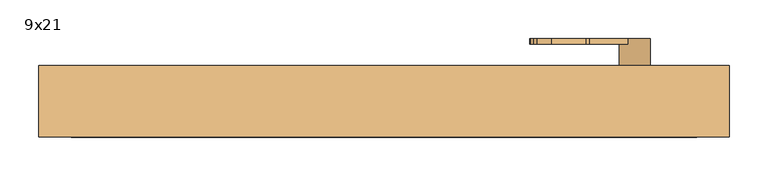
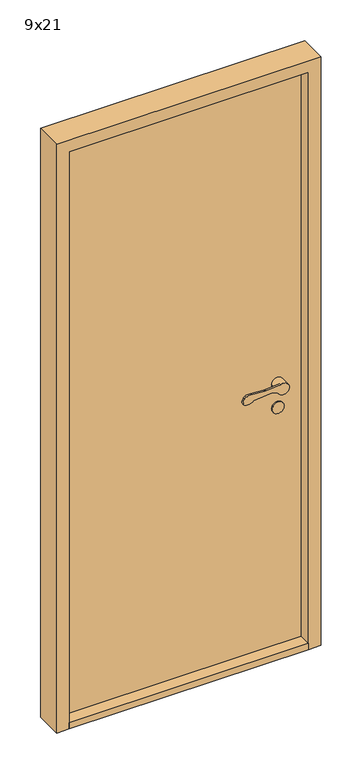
"""IFC4 building model written with IfcOpenShell, lengths in millimetres: door geometry, Innerdør Slett (Diplomat) : 9x21."""

import ifcopenshell
import ifcopenshell.guid

model = None  # the IFC model being written
_history = None  # IfcOwnerHistory: only IFC2X3 demands one
_inside = {}  # id of a spatial element -> (the spatial element, [elements in it])
_under = {}  # id of a project, library or spatial element -> (it, [spatial elements below it])
_declared = {}  # id of a project -> (the project, [libraries it declares])
_typed = {}  # id of a type object -> (the type object, [elements of that type])
_made_of = {}  # id of a material, layer set ... -> (it, [elements and type objects made of it])


def new_model(schema):
    """Start an empty IFC model of exactly this schema.

    Asked for "IFC4X3", IfcOpenShell would pick the latest addendum, in which some entities
    have other attributes; the version numbers below select the first issue.
    IFC2X3 requires an IfcOwnerHistory on every rooted entity: one is made here for all.
    """
    global model, _history
    if schema == "IFC4X3":
        model = ifcopenshell.file(schema_version=(4, 3, 0, 0))
    else:
        model = ifcopenshell.file(schema=schema)
    _inside.clear()
    _under.clear()
    _declared.clear()
    _typed.clear()
    _made_of.clear()
    _history = None
    if model.schema == "IFC2X3":
        org = make("IfcOrganization", Name="unknown")
        user = make(
            "IfcPersonAndOrganization",
            ThePerson=make("IfcPerson", FamilyName="unknown"),
            TheOrganization=org,
        )
        app = make(
            "IfcApplication",
            ApplicationDeveloper=org,
            Version="unknown",
            ApplicationFullName="unknown",
            ApplicationIdentifier="unknown",
        )
        _history = make(
            "IfcOwnerHistory",
            OwningUser=user,
            OwningApplication=app,
            ChangeAction="ADDED",
            CreationDate=0,
        )
    return model


def make(cls, **values):
    """One entity of the class cls with the attributes given. An attribute that is None is left unset."""
    return model.create_entity(
        cls, **{name: value for name, value in values.items() if value is not None}
    )


def rooted(cls, **values):
    """An entity with a GlobalId (a new one), such as an element, a storey or a relation."""
    return make(cls, GlobalId=ifcopenshell.guid.new(), OwnerHistory=_history, **values)


def si_unit(unit_type, name, prefix=None):
    """IfcSIUnit, for example si_unit("LENGTHUNIT", "METRE", prefix="MILLI")."""
    return make("IfcSIUnit", UnitType=unit_type, Prefix=prefix, Name=name)


def assignment(units):
    """IfcUnitAssignment: the units of a project."""
    return None if units is None else make("IfcUnitAssignment", Units=units)


def point(xyz):
    """IfcCartesianPoint."""
    return None if xyz is None else make("IfcCartesianPoint", Coordinates=xyz)


def direction(xyz):
    """IfcDirection."""
    return None if xyz is None else make("IfcDirection", DirectionRatios=xyz)


def frame(location, z_axis=None, x_axis=None):
    """IfcAxis2Placement3D, a coordinate frame: its origin and axes. An axis left out is left unset."""
    return make(
        "IfcAxis2Placement3D",
        Location=point(location),
        Axis=direction(z_axis),
        RefDirection=direction(x_axis),
    )


def frame_2d(location, x_axis=None):
    """IfcAxis2Placement2D, a coordinate frame in the plane: its origin and x axis."""
    return make(
        "IfcAxis2Placement2D", Location=point(location), RefDirection=direction(x_axis)
    )


def origin():
    """The frame at (0, 0, 0) with its axes left unset."""
    return frame((0.0, 0.0, 0.0))


def origin_with_axes():
    """The frame at (0, 0, 0) with the z axis (0, 0, 1) and the x axis (1, 0, 0) written out."""
    return frame((0.0, 0.0, 0.0), z_axis=(0.0, 0.0, 1.0), x_axis=(1.0, 0.0, 0.0))


def place(relative_to, where):
    """IfcLocalPlacement: puts the frame where relative to a parent placement (None: the world)."""
    return make(
        "IfcLocalPlacement", PlacementRelTo=relative_to, RelativePlacement=where
    )


def context(
    kind, dimensions, precision=None, world=None, true_north=None, identifier=None
):
    """IfcGeometricRepresentationContext, for example the 3D "Model" context."""
    return make(
        "IfcGeometricRepresentationContext",
        ContextIdentifier=identifier,
        ContextType=kind,
        CoordinateSpaceDimension=dimensions,
        Precision=precision,
        WorldCoordinateSystem=world,
        TrueNorth=true_north,
    )


def project(units=None, contexts=None):
    """IfcProject with its units and contexts."""
    return rooted(
        "IfcProject",
        Name="project",
        RepresentationContexts=contexts,
        UnitsInContext=assignment(units),
    )


def spatial(cls, under=None, at=None, **own):
    """A site, building, storey or space (cls), placed at a placement, below another one or the project."""
    s = rooted(cls, ObjectPlacement=at, **own)
    if under is not None:
        _under.setdefault(under.id(), (under, []))[1].append(s)
    return s


def polyline(points):
    """IfcPolyline through the points."""
    return make("IfcPolyline", Points=[point(p) for p in points])


def circle_curve(where, radius):
    """IfcCircle in the frame where."""
    return make("IfcCircle", Position=where, Radius=radius)


def trimmed(basis, trim1, trim2, sense, master):
    """IfcTrimmedCurve: the piece of a basis curve between two trims."""
    return make(
        "IfcTrimmedCurve",
        BasisCurve=basis,
        Trim1=trim1,
        Trim2=trim2,
        SenseAgreement=sense,
        MasterRepresentation=master,
    )


def segment(curve, same_sense, transition):
    """IfcCompositeCurveSegment."""
    return make(
        "IfcCompositeCurveSegment",
        Transition=transition,
        SameSense=same_sense,
        ParentCurve=curve,
    )


def composite_curve(segments, self_intersect=None):
    """IfcCompositeCurve: segments joined end to end."""
    return make("IfcCompositeCurve", Segments=segments, SelfIntersect=self_intersect)


def outline(outer, holes=None, kind="AREA"):
    """IfcArbitraryClosedProfileDef: a profile drawn as a closed curve; with holes, ...WithVoids."""
    if holes is None:
        return make("IfcArbitraryClosedProfileDef", ProfileType=kind, OuterCurve=outer)
    return make(
        "IfcArbitraryProfileDefWithVoids",
        ProfileType=kind,
        OuterCurve=outer,
        InnerCurves=holes,
    )


def extrude(swept, where, along, depth):
    """IfcExtrudedAreaSolid: the profile swept, set in the frame where, extruded along a direction by depth."""
    return make(
        "IfcExtrudedAreaSolid",
        SweptArea=swept,
        Position=where,
        ExtrudedDirection=direction(along),
        Depth=depth,
    )


def shape(context_of_items, identifier, shape_type, items):
    """IfcShapeRepresentation: the items that make up one representation, for example the "Body"."""
    return make(
        "IfcShapeRepresentation",
        ContextOfItems=context_of_items,
        RepresentationIdentifier=identifier,
        RepresentationType=shape_type,
        Items=items,
    )


def source(mapping_origin, context_of_items, identifier, shape_type, items):
    """IfcRepresentationMap: a shape defined once, which mapped items show again and again."""
    return make(
        "IfcRepresentationMap",
        MappingOrigin=mapping_origin,
        MappedRepresentation=shape(context_of_items, identifier, shape_type, items),
    )


def transform(
    local_origin,
    x_axis=None,
    y_axis=None,
    z_axis=None,
    scale=None,
    scale2=None,
    scale3=None,
    uniform=True,
):
    """IfcCartesianTransformationOperator3D, or its non-uniform kind. x_axis, y_axis, z_axis: its Axis1, 2, 3."""
    if uniform:
        return make(
            "IfcCartesianTransformationOperator3D",
            Axis1=direction(x_axis),
            Axis2=direction(y_axis),
            LocalOrigin=point(local_origin),
            Scale=scale,
            Axis3=direction(z_axis),
        )
    return make(
        "IfcCartesianTransformationOperator3DnonUniform",
        Axis1=direction(x_axis),
        Axis2=direction(y_axis),
        LocalOrigin=point(local_origin),
        Scale=scale,
        Axis3=direction(z_axis),
        Scale2=scale2,
        Scale3=scale3,
    )


def mapped(mapping_source, mapping_target):
    """IfcMappedItem: shows the shape of a source again, moved by a transform."""
    return make(
        "IfcMappedItem", MappingSource=mapping_source, MappingTarget=mapping_target
    )


def made_of(thing, what):
    """Note that an element or type object is made of a material, layer set ...; save() writes the relation."""
    if what is not None:
        _made_of.setdefault(what.id(), (what, []))[1].append(thing)
    return thing


def element(
    cls,
    number,
    at=None,
    inside=None,
    cuts=None,
    type_object=None,
    material=None,
    context=None,
    identifier="Body",
    shape_type=None,
    held_by="IfcProductDefinitionShape",
    body=None,
    shapes=None,
    **own,
):
    """One element of the class cls, such as IfcWall. Its Tag is "e" and its number.

    at: its placement. inside: the storey or other place that contains it. cuts: it is an
    opening in that element (IfcRelVoidsElement). A single representation is given by context,
    identifier, shape_type and body (its items); several are given by shapes. held_by: the class
    of the entity that holds the representations. save() writes the other relations.
    """
    e = rooted(cls, Tag="e%d" % number, ObjectPlacement=at, **own)
    if body is not None:
        shapes = [shape(context, identifier, shape_type, body)]
    if shapes is not None:
        e.Representation = make(held_by, Representations=shapes)
    if inside is not None:
        _inside.setdefault(inside.id(), (inside, []))[1].append(e)
    if cuts is not None:
        rooted(
            "IfcRelVoidsElement", RelatingBuildingElement=cuts, RelatedOpeningElement=e
        )
    if type_object is not None:
        _typed.setdefault(type_object.id(), (type_object, []))[1].append(e)
    return made_of(e, material)


def aggregate(whole, parts):
    """IfcRelAggregates: a whole, such as a stair, and the parts it consists of."""
    return rooted("IfcRelAggregates", RelatingObject=whole, RelatedObjects=parts)


def save(model, path):
    """Write the relations noted so far, then the file.

    IfcRelAggregates (storeys below a building ...), IfcRelContainedInSpatialStructure (elements
    in a storey), IfcRelDefinesByType, IfcRelAssociatesMaterial and IfcRelDeclares: one each for
    every whole, place, type object, material and project.
    """
    for whole, parts in _under.values():
        aggregate(whole, parts)
    for where, things in _inside.values():
        rooted(
            "IfcRelContainedInSpatialStructure",
            RelatedElements=things,
            RelatingStructure=where,
        )
    for kind, things in _typed.values():
        rooted("IfcRelDefinesByType", RelatedObjects=things, RelatingType=kind)
    for what, things in _made_of.values():
        rooted("IfcRelAssociatesMaterial", RelatedObjects=things, RelatingMaterial=what)
    for by, libraries in _declared.values():
        rooted("IfcRelDeclares", RelatingContext=by, RelatedDefinitions=libraries)
    model.write(path)


def plane_surface(at):
    """IfcPlane: the flat surface through the origin of the frame at, square to its z axis."""
    return make("IfcPlane", Position=at)


def cylinder_surface(at, radius):
    """IfcCylindricalSurface: all points at the distance radius from the z axis of the frame at."""
    return make("IfcCylindricalSurface", Position=at, Radius=radius)


def revolved_surface(curve, axis_point, axis_direction):
    """IfcSurfaceOfRevolution: the curve turned about the line through axis_point along axis_direction."""
    return make(
        "IfcSurfaceOfRevolution",
        SweptCurve=make("IfcArbitraryOpenProfileDef", ProfileType="CURVE", Curve=curve),
        AxisPosition=make("IfcAxis1Placement", Location=point(axis_point), Axis=direction(axis_direction)),
    )


def advanced_brep(points, edges, surfaces, faces):
    """IfcAdvancedBrep: a solid bounded by faces that lie on surfaces and meet in shared edges.

    An edge is (start, end): straight between two places in points (the first is 0);
    or (start, end, curve); or (start, end, curve, False) where it runs against its curve.
    A face is (place in surfaces, loops), or (place, loops, False) where it looks against
    its surface's normal. A loop lists edges by number (the first is 1), with a minus sign
    where the edge is run from its end to its start. The first loop is the outer one.
    """
    corners = [point(p) for p in points]
    vertices = [make("IfcVertexPoint", VertexGeometry=c) for c in corners]
    made = []
    for start, end, *more in edges:
        made.append(
            make(
                "IfcEdgeCurve",
                EdgeStart=vertices[start],
                EdgeEnd=vertices[end],
                EdgeGeometry=more[0] if more else make("IfcPolyline", Points=[corners[start], corners[end]]),
                SameSense=more[1] if len(more) > 1 else True,
            )
        )
    hull = []
    for where, loops, *sense in faces:
        bounds = []
        for j, loop in enumerate(loops):
            ring = [make("IfcOrientedEdge", EdgeElement=made[abs(k) - 1], Orientation=k > 0) for k in loop]
            bounds.append(
                make(
                    "IfcFaceOuterBound" if j == 0 else "IfcFaceBound",
                    Bound=make("IfcEdgeLoop", EdgeList=ring),
                    Orientation=True,
                )
            )
        hull.append(make("IfcAdvancedFace", Bounds=bounds, FaceSurface=surfaces[where], SameSense=sense[0] if sense else True))
    return make("IfcAdvancedBrep", Outer=make("IfcClosedShell", CfsFaces=hull))


def door_9x21_12a167ef(model_context):
    return source(origin(), model_context, "Body", "SolidModel", [
        advanced_brep(
        [(343.9611305, -20.0, 949.1175955), (358.3841161, -20.0, 942.6204086), (396.379633, -20.0, 951.3474568), (367.2687793, -20.0, 969.1517356), (318.6891233, -20.0, 964.26032), (313.6202158, -20.0, 964.1804415), (268.8963175, -20.0, 967.2639242), (250.3175669, -20.0, 964.8810513), (245.505009, -20.0, 959.9624074), (241.8691983, -20.0, 951.8913379), (246.721536, -20.0, 938.7393398), (276.0476109, -20.0, 943.6260011), (338.8520664, -20.0, 949.9496913), (318.6891233, -12.8915284, 964.26032), (367.2687793, -12.8915284, 969.1517356), (356.379633, -12.8915284, 951.3474568), (358.3841161, -12.8915284, 942.6204086), (343.9611305, -12.8915284, 949.1175955), (338.8520664, -12.8915284, 949.9496913), (276.0476109, -12.8915284, 943.6260011), (246.721536, -12.8915284, 938.7393398), (241.8691983, -12.8915284, 951.8913379), (245.505009, -12.8915284, 959.9624074), (250.3175669, -12.8915284, 964.8810513), (268.8963175, -12.8915284, 967.2639242), (313.6202158, -12.8915284, 964.1804415), (396.379633, 15.0, 951.3474568), (356.379633, 15.0, 951.3474568)],
        [
            (0, 1),
            (1, 2, circle_curve(frame((376.379633, -20.0, 951.3474568), z_axis=(0.0, -1.0, 0.0), x_axis=(-1.0, 0.0, 0.0)), 20.0)),
            (2, 3, circle_curve(frame((376.379633, -20.0, 951.3474568), z_axis=(0.0, -1.0, 0.0), x_axis=(-1.0, 0.0, 0.0)), 20.0)),
            (3, 4),
            (4, 5, circle_curve(frame((315.683663, -20.0, 994.1093938), z_axis=(0.0, 1.0, 0.0), x_axis=(-0.9949691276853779, 0.0, -0.10018200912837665)), 30.0)),
            (5, 6),
            (6, 7, circle_curve(frame((263.2326797, -20.0, 937.8033877), z_axis=(0.0, -1.0, 0.0), x_axis=(-0.9949691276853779, 0.0, -0.10018200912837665)), 30.0)),
            (7, 8, circle_curve(frame((254.6226045, -20.0, 955.8551634), z_axis=(0.0, -1.0, 0.0), x_axis=(-0.9949691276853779, 0.0, -0.10018200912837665)), 10.0)),
            (8, 9),
            (9, 10, circle_curve(frame((250.9867937, -20.0, 947.7840939), z_axis=(0.0, -1.0, 0.0), x_axis=(-0.9949691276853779, 0.0, -0.10018200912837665)), 10.0)),
            (10, 11, circle_curve(frame((257.8569644, -20.0, 962.352734), z_axis=(0.0, -1.0, 0.0), x_axis=(-0.9949691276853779, 0.0, -0.10018200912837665)), 26.1072815)),
            (11, 12),
            (12, 0, circle_curve(frame((339.8538865, -20.0, 940.0), z_axis=(0.0, 1.0, 0.0), x_axis=(-0.9949691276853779, 0.0, -0.10018200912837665)), 10.0)),
            (13, 14),
            (14, 15, circle_curve(frame((376.379633, -12.8915284, 951.3474568), z_axis=(0.0, -1.0, 0.0), x_axis=(-1.0, 0.0, 0.0)), 20.0)),
            (15, 16, circle_curve(frame((376.379633, -12.8915284, 951.3474568), z_axis=(0.0, -1.0, 0.0), x_axis=(-1.0, 0.0, 0.0)), 20.0)),
            (16, 17),
            (17, 18, circle_curve(frame((339.8538865, -12.8915284, 940.0), z_axis=(0.0, -1.0, 0.0), x_axis=(-0.9949691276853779, 0.0, -0.10018200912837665)), 10.0)),
            (18, 19),
            (19, 20, circle_curve(frame((257.8569644, -12.8915284, 962.352734), z_axis=(0.0, 1.0, 0.0), x_axis=(-0.9949691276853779, 0.0, -0.10018200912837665)), 26.1072815)),
            (20, 21, circle_curve(frame((250.9867937, -12.8915284, 947.7840939), z_axis=(0.0, 1.0, 0.0), x_axis=(-0.9949691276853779, 0.0, -0.10018200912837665)), 10.0)),
            (21, 22),
            (22, 23, circle_curve(frame((254.6226045, -12.8915284, 955.8551634), z_axis=(0.0, 1.0, 0.0), x_axis=(-0.9949691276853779, 0.0, -0.10018200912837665)), 10.0)),
            (23, 24, circle_curve(frame((263.2326797, -12.8915284, 937.8033877), z_axis=(0.0, 1.0, 0.0), x_axis=(-0.9949691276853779, 0.0, -0.10018200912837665)), 30.0)),
            (24, 25),
            (25, 13, circle_curve(frame((315.683663, -12.8915284, 994.1093938), z_axis=(0.0, -1.0, 0.0), x_axis=(-0.9949691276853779, 0.0, -0.10018200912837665)), 30.0)),
            (3, 14),
            (13, 4),
            (16, 1),
            (0, 17),
            (12, 18),
            (11, 19),
            (10, 20),
            (9, 21),
            (8, 22),
            (7, 23),
            (6, 24),
            (5, 25),
            (26, 27, circle_curve(frame((376.379633, 15.0, 951.3474568), z_axis=(0.0, 1.0, 0.0), x_axis=(-1.0, 0.0, 0.0)), 20.0)),
            (27, 26, circle_curve(frame((376.379633, 15.0, 951.3474568), z_axis=(0.0, 1.0, 0.0), x_axis=(-1.0, 0.0, 0.0)), 20.0)),
            (26, 2),
            (15, 27),
        ],
        [
            plane_surface(frame((367.6960588, -20.0, 969.1947577), z_axis=(0.0, -1.0000000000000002, 0.0), x_axis=(0.9949691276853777, 0.0, 0.10018200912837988))),
            plane_surface(frame((367.6960588, -12.8915284, 969.1947577), z_axis=(0.0, 1.0000000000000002, 0.0), x_axis=(-0.9949691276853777, 0.0, -0.10018200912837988))),
            plane_surface(frame((318.6891233, -20.0, 964.26032), z_axis=(-0.10018200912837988, 0.0, 0.9949691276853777), x_axis=(0.0, 1.0, 0.0))),
            plane_surface(frame((376.9687366, -20.0, 934.2485115), z_axis=(-0.41072439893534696, 0.0, -0.91175954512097), x_axis=(0.0, 1.0, 0.0))),
            revolved_surface(polyline([(329.9041952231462, -12.8915284, 938.9981799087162), (329.9041952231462, -20.0, 938.9981799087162)]), (339.8538865, -12.8915284, 940.0), (0.0, 1.0, 0.0)),
            plane_surface(frame((338.8520664, -20.0, 949.9496913), z_axis=(0.10018200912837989, 0.0, -0.9949691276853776), x_axis=(0.0, 1.0, 0.0))),
            cylinder_surface(frame((257.8569644, -12.8915284, 962.352734), z_axis=(0.0, -1.0, 0.0), x_axis=(-0.9949691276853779, 0.0, -0.10018200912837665)), 26.1072815),
            cylinder_surface(frame((250.9867937, -12.8915284, 947.7840939), z_axis=(0.0, -1.0, 0.0), x_axis=(-0.9949691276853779, 0.0, -0.10018200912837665)), 10.0),
            plane_surface(frame((241.8691983, -20.0, 951.8913379), z_axis=(-0.9117595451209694, 0.0, 0.41072439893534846), x_axis=(0.0, 1.0, 0.0))),
            cylinder_surface(frame((254.6226045, -12.8915284, 955.8551634), z_axis=(0.0, -1.0, 0.0), x_axis=(-0.9949691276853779, 0.0, -0.10018200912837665)), 10.0),
            cylinder_surface(frame((263.2326797, -12.8915284, 937.8033877), z_axis=(0.0, -1.0, 0.0), x_axis=(-0.9949691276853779, 0.0, -0.10018200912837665)), 30.0),
            plane_surface(frame((268.8963175, -20.0, 967.2639242), z_axis=(0.06878157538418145, 0.0, 0.9976317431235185), x_axis=(0.0, 1.0, 0.0))),
            revolved_surface(polyline([(285.8345891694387, -12.8915284, 991.1039335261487), (285.8345891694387, -20.0, 991.1039335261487)]), (315.683663, -12.8915284, 994.1093938), (0.0, 1.0, 0.0)),
            plane_surface(frame((356.379633, 15.0, 951.3474568), z_axis=(0.0, 1.0, 0.0), x_axis=(0.0, 0.0, -1.0))),
            cylinder_surface(frame((376.379633, 15.0, 951.3474568), z_axis=(0.0, -1.0, 0.0), x_axis=(-1.0, 0.0, 0.0)), 20.0),
        ],
        [
            (0, [[1, 2, 3, 4, 5, 6, 7, 8, 9, 10, 11, 12, 13]]),
            (1, [[14, 15, 16, 17, 18, 19, 20, 21, 22, 23, 24, 25, 26]]),
            (2, [[-4, 27, -14, 28]]),
            (3, [[-17, 29, -1, 30]]),
            (4, [[31, -18, -30, -13]]),
            (5, [[32, -19, -31, -12]]),
            (6, [[33, -20, -32, -11]]),
            (7, [[34, -21, -33, -10]]),
            (8, [[35, -22, -34, -9]]),
            (9, [[36, -23, -35, -8]]),
            (10, [[37, -24, -36, -7]]),
            (11, [[38, -25, -37, -6]]),
            (12, [[-28, -26, -38, -5]]),
            (13, [[39, 40]]),
            (14, [[41, -2, -29, -16, 42, -39]]),
            (14, [[-42, -15, -27, -3, -41, -40]]),
        ],
    ),
        extrude(outline(composite_curve([segment(trimmed(circle_curve(frame_2d((866.3474568, 376.379633)), 20.0), [point((866.3474568, 396.379633))], [point((866.3474568, 356.379633))], False, "CARTESIAN"), True, "CONTINUOUS"), segment(trimmed(circle_curve(frame_2d((866.3474568, 376.379633)), 20.0), [point((866.3474568, 356.379633))], [point((866.3474568, 396.379633))], False, "CARTESIAN"), True, "CONTINUOUS")], self_intersect=False)), frame((0.0, 10.0, 0.0), z_axis=(0.0, 1.0, 0.0), x_axis=(0.0, 0.0, 1.0)), (0.0, 0.0, 1.0), 5.0),
        advanced_brep(
        [(343.9611305, 100.0, 949.1175955), (338.8520664, 100.0, 949.9496913), (276.0476109, 100.0, 943.6260011), (246.721536, 100.0, 938.7393398), (241.8691983, 100.0, 951.8913379), (245.505009, 100.0, 959.9624074), (250.3175669, 100.0, 964.8810513), (268.8963175, 100.0, 967.2639242), (313.6202158, 100.0, 964.1804415), (318.6891233, 100.0, 964.26032), (367.2687793, 100.0, 969.1517356), (396.379633, 100.0, 951.3474568), (358.3841161, 100.0, 942.6204086), (318.6891233, 92.8915284, 964.26032), (313.6202158, 92.8915284, 964.1804415), (268.8963175, 92.8915284, 967.2639242), (250.3175669, 92.8915284, 964.8810513), (245.505009, 92.8915284, 959.9624074), (241.8691983, 92.8915284, 951.8913379), (246.721536, 92.8915284, 938.7393398), (276.0476109, 92.8915284, 943.6260011), (338.8520664, 92.8915284, 949.9496913), (343.9611305, 92.8915284, 949.1175955), (358.3841161, 92.8915284, 942.6204086), (356.379633, 92.8915284, 951.3474568), (367.2687793, 92.8915284, 969.1517356), (396.379633, 65.0, 951.3474568), (356.379633, 65.0, 951.3474568)],
        [
            (0, 1, circle_curve(frame((339.8538865, 100.0, 940.0), z_axis=(0.0, -1.0, 0.0), x_axis=(-0.9949691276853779, 0.0, -0.10018200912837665)), 10.0)),
            (1, 2),
            (2, 3, circle_curve(frame((257.8569644, 100.0, 962.352734), z_axis=(0.0, 1.0, 0.0), x_axis=(-0.9949691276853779, 0.0, -0.10018200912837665)), 26.1072815)),
            (3, 4, circle_curve(frame((250.9867937, 100.0, 947.7840939), z_axis=(0.0, 1.0, 0.0), x_axis=(-0.9949691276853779, 0.0, -0.10018200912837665)), 10.0)),
            (4, 5),
            (5, 6, circle_curve(frame((254.6226045, 100.0, 955.8551634), z_axis=(0.0, 1.0, 0.0), x_axis=(-0.9949691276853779, 0.0, -0.10018200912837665)), 10.0)),
            (6, 7, circle_curve(frame((263.2326797, 100.0, 937.8033877), z_axis=(0.0, 1.0, 0.0), x_axis=(-0.9949691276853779, 0.0, -0.10018200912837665)), 30.0)),
            (7, 8),
            (8, 9, circle_curve(frame((315.683663, 100.0, 994.1093938), z_axis=(0.0, -1.0, 0.0), x_axis=(-0.9949691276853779, 0.0, -0.10018200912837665)), 30.0)),
            (9, 10),
            (10, 11, circle_curve(frame((376.379633, 100.0, 951.3474568), z_axis=(0.0, 1.0, 0.0), x_axis=(-1.0, 0.0, 0.0)), 20.0)),
            (11, 12, circle_curve(frame((376.379633, 100.0, 951.3474568), z_axis=(0.0, 1.0, 0.0), x_axis=(-1.0, 0.0, 0.0)), 20.0)),
            (12, 0),
            (13, 14, circle_curve(frame((315.683663, 92.8915284, 994.1093938), z_axis=(0.0, 1.0, 0.0), x_axis=(-0.9949691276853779, 0.0, -0.10018200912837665)), 30.0)),
            (14, 15),
            (15, 16, circle_curve(frame((263.2326797, 92.8915284, 937.8033877), z_axis=(0.0, -1.0, 0.0), x_axis=(-0.9949691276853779, 0.0, -0.10018200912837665)), 30.0)),
            (16, 17, circle_curve(frame((254.6226045, 92.8915284, 955.8551634), z_axis=(0.0, -1.0, 0.0), x_axis=(-0.9949691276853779, 0.0, -0.10018200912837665)), 10.0)),
            (17, 18),
            (18, 19, circle_curve(frame((250.9867937, 92.8915284, 947.7840939), z_axis=(0.0, -1.0, 0.0), x_axis=(-0.9949691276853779, 0.0, -0.10018200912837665)), 10.0)),
            (19, 20, circle_curve(frame((257.8569644, 92.8915284, 962.352734), z_axis=(0.0, -1.0, 0.0), x_axis=(-0.9949691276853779, 0.0, -0.10018200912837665)), 26.1072815)),
            (20, 21),
            (21, 22, circle_curve(frame((339.8538865, 92.8915284, 940.0), z_axis=(0.0, 1.0, 0.0), x_axis=(-0.9949691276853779, 0.0, -0.10018200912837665)), 10.0)),
            (22, 23),
            (23, 24, circle_curve(frame((376.379633, 92.8915284, 951.3474568), z_axis=(0.0, 1.0, 0.0), x_axis=(-1.0, 0.0, 0.0)), 20.0)),
            (24, 25, circle_curve(frame((376.379633, 92.8915284, 951.3474568), z_axis=(0.0, 1.0, 0.0), x_axis=(-1.0, 0.0, 0.0)), 20.0)),
            (25, 13),
            (9, 13),
            (25, 10),
            (22, 0),
            (12, 23),
            (21, 1),
            (20, 2),
            (19, 3),
            (18, 4),
            (17, 5),
            (16, 6),
            (15, 7),
            (14, 8),
            (26, 27, circle_curve(frame((376.379633, 65.0, 951.3474568), z_axis=(0.0, -1.0, 0.0), x_axis=(-1.0, 0.0, 0.0)), 20.0)),
            (27, 26, circle_curve(frame((376.379633, 65.0, 951.3474568), z_axis=(0.0, -1.0, 0.0), x_axis=(-1.0, 0.0, 0.0)), 20.0)),
            (27, 24),
            (11, 26),
        ],
        [
            plane_surface(frame((367.6960588, 100.0, 969.1947577), z_axis=(0.0, 1.0000000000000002, 0.0), x_axis=(0.9949691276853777, 0.0, 0.10018200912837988))),
            plane_surface(frame((367.6960588, 92.8915284, 969.1947577), z_axis=(0.0, -1.0000000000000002, 0.0), x_axis=(-0.9949691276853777, 0.0, -0.10018200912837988))),
            plane_surface(frame((318.6891233, 100.0, 964.26032), z_axis=(-0.10018200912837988, 0.0, 0.9949691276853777), x_axis=(0.0, -1.0, 0.0))),
            plane_surface(frame((376.9687366, 100.0, 934.2485115), z_axis=(-0.41072439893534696, 0.0, -0.91175954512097), x_axis=(0.0, -1.0, 0.0))),
            revolved_surface(polyline([(329.9041952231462, 92.8915284, 938.9981799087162), (329.9041952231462, 100.0, 938.9981799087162)]), (339.8538865, 92.8915284, 940.0), (0.0, -1.0, 0.0)),
            plane_surface(frame((338.8520664, 100.0, 949.9496913), z_axis=(0.10018200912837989, 0.0, -0.9949691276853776), x_axis=(0.0, -1.0, 0.0))),
            cylinder_surface(frame((257.8569644, 92.8915284, 962.352734), z_axis=(0.0, 1.0, 0.0), x_axis=(-0.9949691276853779, 0.0, -0.10018200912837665)), 26.1072815),
            cylinder_surface(frame((250.9867937, 92.8915284, 947.7840939), z_axis=(0.0, 1.0, 0.0), x_axis=(-0.9949691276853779, 0.0, -0.10018200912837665)), 10.0),
            plane_surface(frame((241.8691983, 100.0, 951.8913379), z_axis=(-0.9117595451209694, 0.0, 0.41072439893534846), x_axis=(0.0, -1.0, 0.0))),
            cylinder_surface(frame((254.6226045, 92.8915284, 955.8551634), z_axis=(0.0, 1.0, 0.0), x_axis=(-0.9949691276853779, 0.0, -0.10018200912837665)), 10.0),
            cylinder_surface(frame((263.2326797, 92.8915284, 937.8033877), z_axis=(0.0, 1.0, 0.0), x_axis=(-0.9949691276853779, 0.0, -0.10018200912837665)), 30.0),
            plane_surface(frame((268.8963175, 100.0, 967.2639242), z_axis=(0.06878157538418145, 0.0, 0.9976317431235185), x_axis=(0.0, -1.0, 0.0))),
            revolved_surface(polyline([(285.8345891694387, 92.8915284, 991.1039335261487), (285.8345891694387, 100.0, 991.1039335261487)]), (315.683663, 92.8915284, 994.1093938), (0.0, -1.0, 0.0)),
            plane_surface(frame((356.379633, 65.0, 951.3474568), z_axis=(0.0, -1.0, 0.0), x_axis=(0.0, 0.0, -1.0))),
            cylinder_surface(frame((376.379633, 65.0, 951.3474568), z_axis=(0.0, 1.0, 0.0), x_axis=(-1.0, 0.0, 0.0)), 20.0),
        ],
        [
            (0, [[1, 2, 3, 4, 5, 6, 7, 8, 9, 10, 11, 12, 13]]),
            (1, [[14, 15, 16, 17, 18, 19, 20, 21, 22, 23, 24, 25, 26]]),
            (2, [[27, -26, 28, -10]]),
            (3, [[29, -13, 30, -23]]),
            (4, [[-1, -29, -22, 31]]),
            (5, [[-2, -31, -21, 32]]),
            (6, [[-3, -32, -20, 33]]),
            (7, [[-4, -33, -19, 34]]),
            (8, [[-5, -34, -18, 35]]),
            (9, [[-6, -35, -17, 36]]),
            (10, [[-7, -36, -16, 37]]),
            (11, [[-8, -37, -15, 38]]),
            (12, [[-9, -38, -14, -27]]),
            (13, [[39, 40]]),
            (14, [[-40, 41, -24, -30, -12, 42]]),
            (14, [[-39, -42, -11, -28, -25, -41]]),
        ],
    ),
        extrude(outline(composite_curve([segment(trimmed(circle_curve(frame_2d((866.3474568, 376.379633)), 20.0), [point((866.3474568, 396.379633))], [point((866.3474568, 356.379633))], False, "CARTESIAN"), True, "CONTINUOUS"), segment(trimmed(circle_curve(frame_2d((866.3474568, 376.379633)), 20.0), [point((866.3474568, 356.379633))], [point((866.3474568, 396.379633))], False, "CARTESIAN"), True, "CONTINUOUS")], self_intersect=False)), frame((0.0, 65.0, 0.0), z_axis=(0.0, 1.0, 0.0), x_axis=(0.0, 0.0, 1.0)), (0.0, 0.0, 1.0), 5.0),
        extrude(outline(polyline([(456.379633, -27.0), (-349.620367, -27.0), (-349.620367, 65.0), (456.379633, 65.0), (456.379633, -27.0)])), origin_with_axes(), (0.0, 0.0, 1.0), 22.0),
        extrude(outline(polyline([(456.379633, 15.0), (-349.620367, 15.0), (-349.620367, 65.0), (456.379633, 65.0), (456.379633, 15.0)])), frame((0.0, 0.0, 22.0), z_axis=(0.0, 0.0, 1.0), x_axis=(1.0, 0.0, 0.0)), (0.0, 0.0, 1.0), 2031.0),
        extrude(outline(polyline([(0.0, -391.620367), (0.0, -349.620367), (2053.0, -349.620367), (2053.0, 456.379633), (0.0, 456.379633), (0.0, 498.379633), (2095.0, 498.379633), (2095.0, -391.620367), (0.0, -391.620367)])), frame((0.0, -27.0, 0.0), z_axis=(0.0, 1.0, 0.0), x_axis=(0.0, 0.0, 1.0)), (0.0, 0.0, 1.0), 92.0),
    ])


if __name__ == "__main__":
    model = new_model("IFC4")
    model_context = context("Model", 3, world=origin())
    ifc_project = project(units=[si_unit("LENGTHUNIT", "METRE", prefix="MILLI")], contexts=[model_context])
    site = spatial("IfcSite", under=ifc_project)
    building = spatial("IfcBuilding", under=site)
    placement = place(None, origin())
    door_9x21_shape = door_9x21_12a167ef(model_context)
    element("IfcDoor", 1, ObjectType="Innerdør Slett (Diplomat) : 9x21", at=placement, inside=building, context=model_context, shape_type="MappedRepresentation", body=[
        mapped(door_9x21_shape, transform((0.0, 0.0, 0.0), x_axis=(1.0, 0.0, 0.0), y_axis=(0.0, 1.0, 0.0), z_axis=(0.0, 0.0, 1.0))),
    ])
    save(model, "model.ifc")
